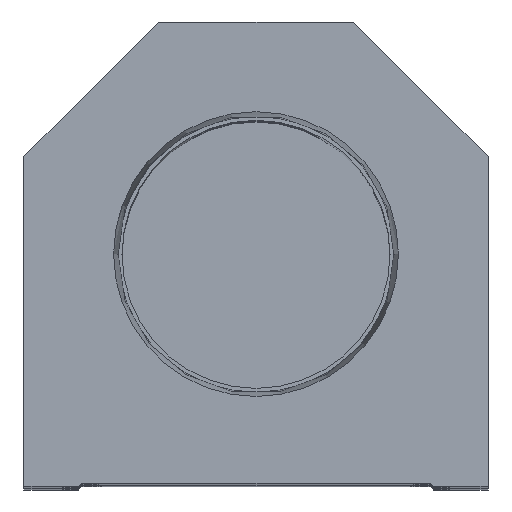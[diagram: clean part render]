
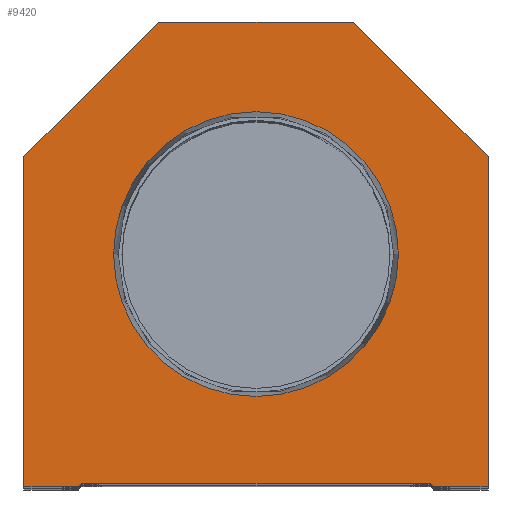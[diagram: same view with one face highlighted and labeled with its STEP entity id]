
A CAD part, top view. The second image highlights one B-rep face of the part: STEP entity #9420.
In plain terms, the highlighted planar face has unit normal (0, 0, 1).
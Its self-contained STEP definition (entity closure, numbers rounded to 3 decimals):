
#112 = VERTEX_POINT ( 'NONE', #1725 ) ;
#176 = CARTESIAN_POINT ( 'NONE',  ( -38.1, 0., 0. ) ) ;
#299 = EDGE_CURVE ( 'NONE', #12081, #16952, #6949, .T. ) ;
#374 = EDGE_CURVE ( 'NONE', #16952, #11313, #8475, .T. ) ;
#698 = DIRECTION ( 'NONE',  ( 0.707, -0.707, 0. ) ) ;
#1191 = VECTOR ( 'NONE', #14061, 1000. ) ;
#1419 = VECTOR ( 'NONE', #698, 1000. ) ;
#1438 = LINE ( 'NONE', #18696, #1191 ) ;
#1518 = DIRECTION ( 'NONE',  ( 0., 0., 1. ) ) ;
#1555 = LINE ( 'NONE', #7702, #8322 ) ;
#1586 = ORIENTED_EDGE ( 'NONE', *, *, #6361, .T. ) ;
#1725 = CARTESIAN_POINT ( 'NONE',  ( -16., 76.2, 0. ) ) ;
#1916 = LINE ( 'NONE', #17736, #12149 ) ;
#2192 = EDGE_CURVE ( 'NONE', #15122, #17141, #1916, .T. ) ;
#2264 = VECTOR ( 'NONE', #18016, 1000. ) ;
#2882 = DIRECTION ( 'NONE',  ( 0., -1., 0. ) ) ;
#3303 = EDGE_LOOP ( 'NONE', ( #4361, #8027 ) ) ;
#3598 = CARTESIAN_POINT ( 'NONE',  ( 16., 76.2, 0. ) ) ;
#3715 = VECTOR ( 'NONE', #12484, 1000. ) ;
#3801 = AXIS2_PLACEMENT_3D ( 'NONE', #15386, #1518, #18676 ) ;
#3974 = DIRECTION ( 'NONE',  ( 1., 0., 0. ) ) ;
#4213 = EDGE_CURVE ( 'NONE', #10596, #12081, #13617, .T. ) ;
#4361 = ORIENTED_EDGE ( 'NONE', *, *, #8603, .F. ) ;
#4424 = DIRECTION ( 'NONE',  ( 1., 0., 0. ) ) ;
#4645 = CARTESIAN_POINT ( 'NONE',  ( -28.6, 0., 0. ) ) ;
#4656 = DIRECTION ( 'NONE',  ( 0., 0., 1. ) ) ;
#5137 = EDGE_CURVE ( 'NONE', #7492, #10596, #10617, .T. ) ;
#5599 = VERTEX_POINT ( 'NONE', #5685 ) ;
#5685 = CARTESIAN_POINT ( 'NONE',  ( -23.374, 38.1, 0. ) ) ;
#5749 = CARTESIAN_POINT ( 'NONE',  ( 38.1, 0., 0. ) ) ;
#6214 = CARTESIAN_POINT ( 'NONE',  ( 0., 38.1, 0. ) ) ;
#6357 = ORIENTED_EDGE ( 'NONE', *, *, #5137, .T. ) ;
#6361 = EDGE_CURVE ( 'NONE', #11313, #19824, #17451, .T. ) ;
#6472 = DIRECTION ( 'NONE',  ( -0.707, 0.707, 0. ) ) ;
#6949 = LINE ( 'NONE', #19423, #14852 ) ;
#7042 = CARTESIAN_POINT ( 'NONE',  ( -38.1, 54.1, 0. ) ) ;
#7467 = CARTESIAN_POINT ( 'NONE',  ( -28.6, 0.5, 0. ) ) ;
#7492 = VERTEX_POINT ( 'NONE', #176 ) ;
#7594 = VERTEX_POINT ( 'NONE', #8958 ) ;
#7644 = ORIENTED_EDGE ( 'NONE', *, *, #4213, .T. ) ;
#7702 = CARTESIAN_POINT ( 'NONE',  ( -38.1, 0., 0. ) ) ;
#7941 = ORIENTED_EDGE ( 'NONE', *, *, #299, .T. ) ;
#8027 = ORIENTED_EDGE ( 'NONE', *, *, #14006, .F. ) ;
#8322 = VECTOR ( 'NONE', #2882, 1000. ) ;
#8475 = LINE ( 'NONE', #14759, #1419 ) ;
#8584 = EDGE_CURVE ( 'NONE', #17141, #112, #9162, .T. ) ;
#8603 = EDGE_CURVE ( 'NONE', #19974, #5599, #15215, .T. ) ;
#8678 = EDGE_LOOP ( 'NONE', ( #6357, #7644, #7941, #15858, #1586, #13573, #16324, #13769, #12195, #14070 ) ) ;
#8785 = CARTESIAN_POINT ( 'NONE',  ( 29.1, 0., 0. ) ) ;
#8958 = CARTESIAN_POINT ( 'NONE',  ( -38.1, 54.1, 0. ) ) ;
#9092 = EDGE_CURVE ( 'NONE', #7594, #7492, #1555, .T. ) ;
#9162 = LINE ( 'NONE', #15562, #3715 ) ;
#9333 = CARTESIAN_POINT ( 'NONE',  ( 0., 0., 0. ) ) ;
#9420 = ADVANCED_FACE ( 'NONE', ( #17128, #13757 ), #20056, .T. ) ;
#10596 = VERTEX_POINT ( 'NONE', #10762 ) ;
#10617 = LINE ( 'NONE', #4645, #14142 ) ;
#10762 = CARTESIAN_POINT ( 'NONE',  ( -29.1, 0., 0. ) ) ;
#10996 = VECTOR ( 'NONE', #14849, 1000. ) ;
#11313 = VERTEX_POINT ( 'NONE', #8785 ) ;
#11516 = DIRECTION ( 'NONE',  ( 1., 0., 0. ) ) ;
#12081 = VERTEX_POINT ( 'NONE', #7467 ) ;
#12149 = VECTOR ( 'NONE', #6472, 1000. ) ;
#12195 = ORIENTED_EDGE ( 'NONE', *, *, #12483, .T. ) ;
#12236 = CARTESIAN_POINT ( 'NONE',  ( 23.374, 38.1, 0. ) ) ;
#12290 = AXIS2_PLACEMENT_3D ( 'NONE', #6214, #4656, #17188 ) ;
#12483 = EDGE_CURVE ( 'NONE', #112, #7594, #18028, .T. ) ;
#12484 = DIRECTION ( 'NONE',  ( -1., 0., 0. ) ) ;
#12550 = CARTESIAN_POINT ( 'NONE',  ( 38.1, 54.1, 0. ) ) ;
#12897 = VECTOR ( 'NONE', #11516, 1000. ) ;
#13510 = CARTESIAN_POINT ( 'NONE',  ( -14.55, 14.55, 0. ) ) ;
#13573 = ORIENTED_EDGE ( 'NONE', *, *, #13638, .T. ) ;
#13617 = LINE ( 'NONE', #13510, #2264 ) ;
#13638 = EDGE_CURVE ( 'NONE', #19824, #15122, #1438, .T. ) ;
#13757 = FACE_OUTER_BOUND ( 'NONE', #8678, .T. ) ;
#13769 = ORIENTED_EDGE ( 'NONE', *, *, #8584, .T. ) ;
#14006 = EDGE_CURVE ( 'NONE', #5599, #19974, #19941, .T. ) ;
#14061 = DIRECTION ( 'NONE',  ( 0., 1., 0. ) ) ;
#14070 = ORIENTED_EDGE ( 'NONE', *, *, #9092, .T. ) ;
#14142 = VECTOR ( 'NONE', #15232, 1000. ) ;
#14759 = CARTESIAN_POINT ( 'NONE',  ( 14.55, 14.55, 0. ) ) ;
#14849 = DIRECTION ( 'NONE',  ( -0.707, -0.707, 0. ) ) ;
#14852 = VECTOR ( 'NONE', #3974, 1000. ) ;
#15122 = VERTEX_POINT ( 'NONE', #12550 ) ;
#15215 = CIRCLE ( 'NONE', #12290, 23.374 ) ;
#15232 = DIRECTION ( 'NONE',  ( 1., 0., 0. ) ) ;
#15386 = CARTESIAN_POINT ( 'NONE',  ( 0., 38.1, 0. ) ) ;
#15562 = CARTESIAN_POINT ( 'NONE',  ( 16., 76.2, 0. ) ) ;
#15858 = ORIENTED_EDGE ( 'NONE', *, *, #374, .T. ) ;
#16324 = ORIENTED_EDGE ( 'NONE', *, *, #2192, .T. ) ;
#16724 = AXIS2_PLACEMENT_3D ( 'NONE', #9333, #16936, #4424 ) ;
#16936 = DIRECTION ( 'NONE',  ( 0., 0., 1. ) ) ;
#16952 = VERTEX_POINT ( 'NONE', #17284 ) ;
#17128 = FACE_BOUND ( 'NONE', #3303, .T. ) ;
#17141 = VERTEX_POINT ( 'NONE', #3598 ) ;
#17188 = DIRECTION ( 'NONE',  ( 1., 0., 0. ) ) ;
#17284 = CARTESIAN_POINT ( 'NONE',  ( 28.6, 0.5, 0. ) ) ;
#17451 = LINE ( 'NONE', #19336, #12897 ) ;
#17736 = CARTESIAN_POINT ( 'NONE',  ( 38.1, 54.1, 0. ) ) ;
#18016 = DIRECTION ( 'NONE',  ( 0.707, 0.707, 0. ) ) ;
#18028 = LINE ( 'NONE', #7042, #10996 ) ;
#18676 = DIRECTION ( 'NONE',  ( 1., 0., 0. ) ) ;
#18696 = CARTESIAN_POINT ( 'NONE',  ( 38.1, 0., 0. ) ) ;
#19336 = CARTESIAN_POINT ( 'NONE',  ( 28.6, 0., 0. ) ) ;
#19423 = CARTESIAN_POINT ( 'NONE',  ( -28.6, 0.5, 0. ) ) ;
#19824 = VERTEX_POINT ( 'NONE', #5749 ) ;
#19941 = CIRCLE ( 'NONE', #3801, 23.374 ) ;
#19974 = VERTEX_POINT ( 'NONE', #12236 ) ;
#20056 = PLANE ( 'NONE',  #16724 ) ;
